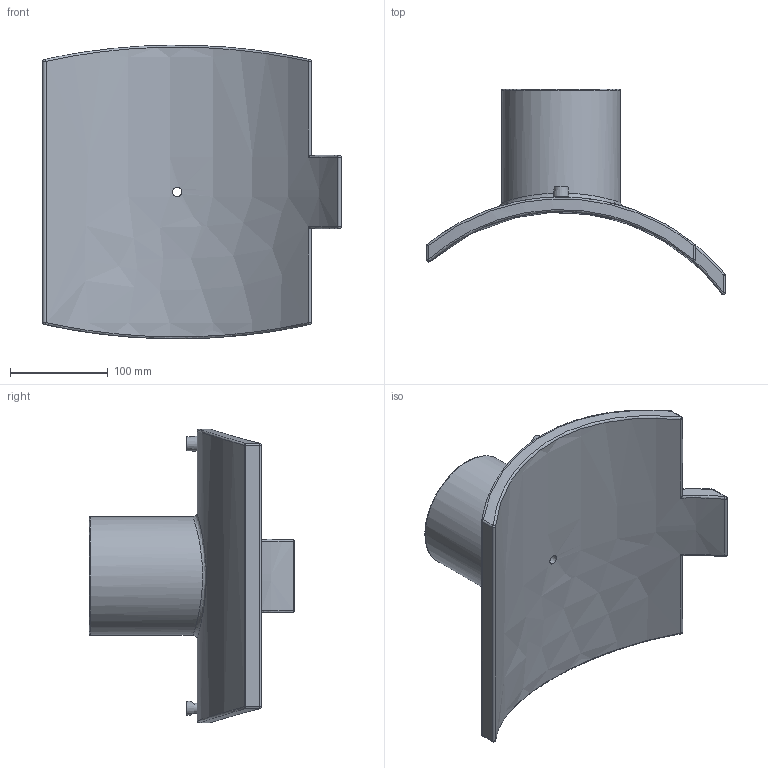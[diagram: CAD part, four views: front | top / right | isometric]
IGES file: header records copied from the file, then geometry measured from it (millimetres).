
Global section: file name: 5958BD03160040.ipt; native system: Autodesk Inventor 2019; preprocessor: unknown; author: KIM; date: 20210830.101234; units: inch
Bounding box: 304.8 x 209.63 x 299.9 mm (x, y, z)
Volume: 1819235.6 mm3; surface area: 278813.6 mm2
Topology: 2 solids, 2 shells, 66 faces, 132 edges, 78 vertices
Faces by surface type: cylinder 22, plane 14, sphere 12, revolution 11, bspline 5, cone 2
Full cylindrical faces by diameter (mm): 4 x2, 16 x1, 121.3 x1
